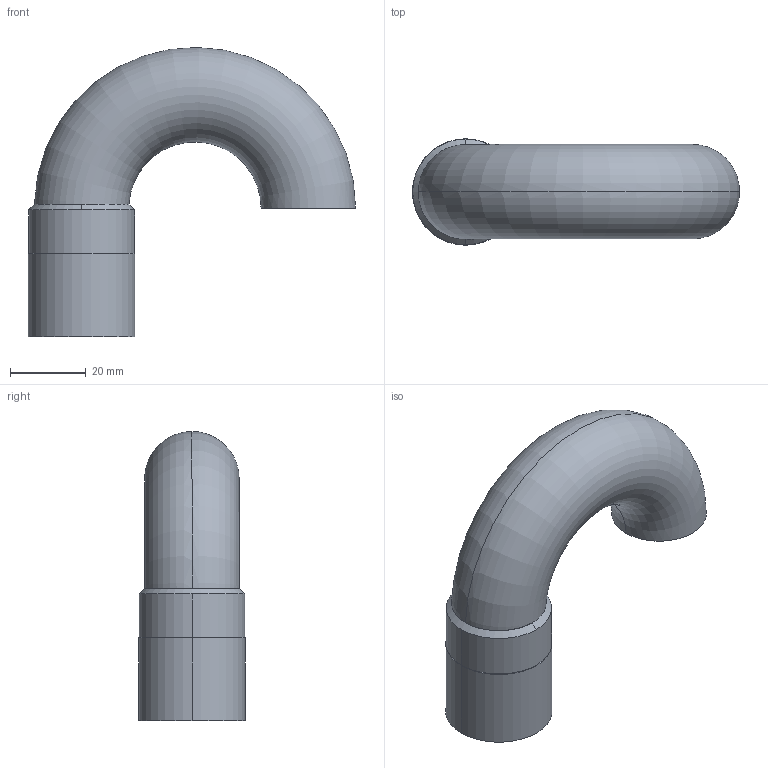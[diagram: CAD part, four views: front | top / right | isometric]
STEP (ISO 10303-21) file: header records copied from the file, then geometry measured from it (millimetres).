
FILE_DESCRIPTION (( 'STEP AP214' ), '1' );
FILE_NAME ('1700004_Os³ona_ochronna_do_zaworów_AAV_0_3D_AFRISO.STEP', '2025-12-03T13:17:21', ( '' ), ( '' ), 'SwSTEP 2.0', 'SolidWorks 2024', '' );
FILE_SCHEMA (( 'AUTOMOTIVE_DESIGN' ));
Length unit declared in the file: millimetre
Products named in the file (3): 1700004_Osłona_ochronna_do_zaworów_AAV_0_3D_AFRISO; AAV100_to_pipe_conncection; AAV_pipe
Assembly tree (2 placements, depth 2):
  1700004_Osłona_ochronna_do_zaworów_AAV_0_3D_AFRISO
    AAV100_to_pipe_conncection
    AAV_pipe
Bounding box: 86.58 x 28.15 x 76.5 mm (x, y, z)
Volume: 16690.1 mm3; surface area: 23625.4 mm2
Topology: 2 solids, 2 shells, 51 faces, 120 edges, 76 vertices
Faces by surface type: plane 22, cylinder 13, cone 8, torus 8
Entity records: 1894 total; most frequent: CARTESIAN_POINT 638, DIRECTION 256, ORIENTED_EDGE 240, EDGE_CURVE 120, AXIS2_PLACEMENT_3D 106, VERTEX_POINT 76, EDGE_LOOP 56, FACE_OUTER_BOUND 51
